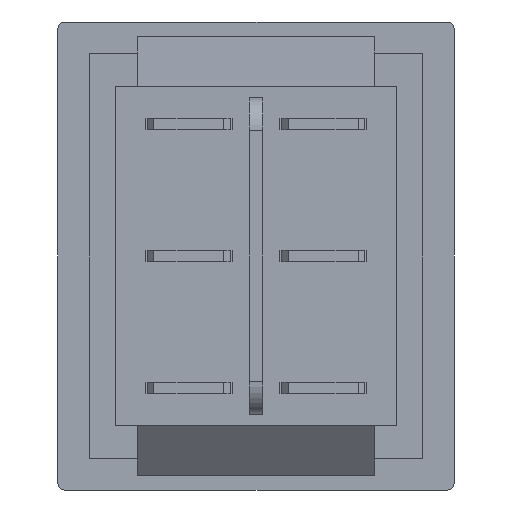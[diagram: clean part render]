
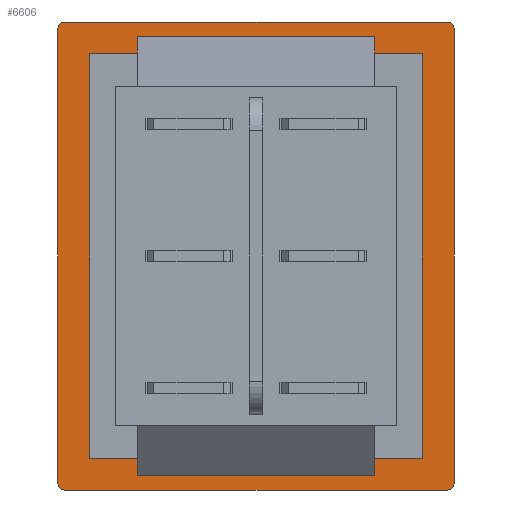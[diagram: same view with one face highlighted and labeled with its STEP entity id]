
A CAD part, front view. The second image highlights one B-rep face of the part: STEP entity #6606.
In plain terms, the highlighted planar face has unit normal (0, -1, 0).
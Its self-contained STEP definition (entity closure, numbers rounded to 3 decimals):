
#5308 = LINE ( 'NONE', #5309, #7054 ) ;
#5309 = CARTESIAN_POINT ( 'NONE',  ( 12.6, 3.5, 15.325 ) ) ;
#5310 = DIRECTION ( 'NONE',  ( -1., 0., 0. ) ) ;
#5317 = LINE ( 'NONE', #5318, #7057 ) ;
#5318 = CARTESIAN_POINT ( 'NONE',  ( -12.6, 3.5, -15.325 ) ) ;
#5319 = DIRECTION ( 'NONE',  ( 1., 0., 0. ) ) ;
#5320 = LINE ( 'NONE', #5321, #7058 ) ;
#5321 = CARTESIAN_POINT ( 'NONE',  ( 12.6, 3.5, -15.325 ) ) ;
#5322 = DIRECTION ( 'NONE',  ( 0., 0., 1. ) ) ;
#5323 = LINE ( 'NONE', #5324, #7059 ) ;
#5324 = CARTESIAN_POINT ( 'NONE',  ( -12.6, 3.5, -28.672 ) ) ;
#5325 = DIRECTION ( 'NONE',  ( 0., 0., 1. ) ) ;
#6311 = EDGE_CURVE ( 'NONE', #21156, #21155, #5308, .T. ) ;
#6314 = EDGE_CURVE ( 'NONE', #21158, #21157, #5317, .T. ) ;
#6315 = EDGE_CURVE ( 'NONE', #21157, #21156, #5320, .T. ) ;
#6316 = EDGE_CURVE ( 'NONE', #21158, #21155, #5323, .T. ) ;
#6356 = CIRCLE ( 'NONE', #14103, 0.5 ) ;
#6357 = CIRCLE ( 'NONE', #14099, 0.5 ) ;
#6358 = CIRCLE ( 'NONE', #14101, 0.5 ) ;
#6359 = CIRCLE ( 'NONE', #14073, 0.5 ) ;
#6606 = ADVANCED_FACE ( 'NONE', ( #13894, #13897 ), #15140, .T. ) ;
#6677 = EDGE_CURVE ( 'NONE', #21150, #21149, #10141, .T. ) ;
#6683 = EDGE_CURVE ( 'NONE', #21146, #21170, #10159, .T. ) ;
#6690 = EDGE_CURVE ( 'NONE', #21175, #21176, #10180, .T. ) ;
#6695 = EDGE_CURVE ( 'NONE', #21132, #21175, #6357, .T. ) ;
#6696 = EDGE_CURVE ( 'NONE', #21132, #21133, #10198, .T. ) ;
#6697 = EDGE_CURVE ( 'NONE', #21176, #21146, #6356, .T. ) ;
#6698 = EDGE_CURVE ( 'NONE', #21170, #21150, #6358, .T. ) ;
#6699 = EDGE_CURVE ( 'NONE', #21149, #21133, #6359, .T. ) ;
#7054 = VECTOR ( 'NONE', #5310, 1000. ) ;
#7057 = VECTOR ( 'NONE', #5319, 1000. ) ;
#7058 = VECTOR ( 'NONE', #5322, 1000. ) ;
#7059 = VECTOR ( 'NONE', #5325, 1000. ) ;
#10125 = CARTESIAN_POINT ( 'NONE',  ( -14.5, 3.5, -17.225 ) ) ;
#10141 = LINE ( 'NONE', #10142, #14083 ) ;
#10142 = CARTESIAN_POINT ( 'NONE',  ( 15., 3.5, 17.725 ) ) ;
#10143 = DIRECTION ( 'NONE',  ( -1., 0., 0. ) ) ;
#10159 = LINE ( 'NONE', #10160, #14089 ) ;
#10160 = CARTESIAN_POINT ( 'NONE',  ( 15., 3.5, -17.725 ) ) ;
#10161 = DIRECTION ( 'NONE',  ( 0., 0., 1. ) ) ;
#10180 = LINE ( 'NONE', #10181, #14096 ) ;
#10181 = CARTESIAN_POINT ( 'NONE',  ( -15., 3.5, -17.725 ) ) ;
#10182 = DIRECTION ( 'NONE',  ( 1., 0., 0. ) ) ;
#10195 = DIRECTION ( 'NONE',  ( 0., -1., 0. ) ) ;
#10196 = DIRECTION ( 'NONE',  ( 1., 0., 0. ) ) ;
#10197 = CARTESIAN_POINT ( 'NONE',  ( 14.5, 3.5, -17.225 ) ) ;
#10198 = LINE ( 'NONE', #10199, #14104 ) ;
#10199 = CARTESIAN_POINT ( 'NONE',  ( -15., 3.5, -28.672 ) ) ;
#10200 = DIRECTION ( 'NONE',  ( 0., 0., 1. ) ) ;
#10201 = DIRECTION ( 'NONE',  ( 0., -1., 0. ) ) ;
#10202 = DIRECTION ( 'NONE',  ( 1., 0., 0. ) ) ;
#10203 = CARTESIAN_POINT ( 'NONE',  ( 14.5, 3.5, 17.225 ) ) ;
#10204 = DIRECTION ( 'NONE',  ( 0., -1., 0. ) ) ;
#10205 = DIRECTION ( 'NONE',  ( 1., 0., 0. ) ) ;
#10206 = CARTESIAN_POINT ( 'NONE',  ( -14.5, 3.5, 17.225 ) ) ;
#10207 = DIRECTION ( 'NONE',  ( 0., -1., 0. ) ) ;
#10208 = DIRECTION ( 'NONE',  ( 1., 0., 0. ) ) ;
#12137 = CARTESIAN_POINT ( 'NONE',  ( -15., 3.5, -17.225 ) ) ;
#12138 = CARTESIAN_POINT ( 'NONE',  ( -15., 3.5, 17.225 ) ) ;
#12151 = CARTESIAN_POINT ( 'NONE',  ( 15., 3.5, -17.225 ) ) ;
#12154 = CARTESIAN_POINT ( 'NONE',  ( -14.5, 3.5, 17.725 ) ) ;
#12155 = CARTESIAN_POINT ( 'NONE',  ( 14.5, 3.5, 17.725 ) ) ;
#12160 = CARTESIAN_POINT ( 'NONE',  ( -12.6, 3.5, 15.325 ) ) ;
#12161 = CARTESIAN_POINT ( 'NONE',  ( 12.6, 3.5, 15.325 ) ) ;
#12162 = CARTESIAN_POINT ( 'NONE',  ( 12.6, 3.5, -15.325 ) ) ;
#12163 = CARTESIAN_POINT ( 'NONE',  ( -12.6, 3.5, -15.325 ) ) ;
#12175 = CARTESIAN_POINT ( 'NONE',  ( 15., 3.5, 17.225 ) ) ;
#12180 = CARTESIAN_POINT ( 'NONE',  ( -14.5, 3.5, -17.725 ) ) ;
#12181 = CARTESIAN_POINT ( 'NONE',  ( 14.5, 3.5, -17.725 ) ) ;
#13894 = FACE_BOUND ( 'NONE', #18829, .T. ) ;
#13897 = FACE_OUTER_BOUND ( 'NONE', #18830, .T. ) ;
#13900 = AXIS2_PLACEMENT_3D ( 'NONE', #15141, #15142, #15143 ) ;
#14073 = AXIS2_PLACEMENT_3D ( 'NONE', #10206, #10207, #10208 ) ;
#14083 = VECTOR ( 'NONE', #10143, 1000. ) ;
#14089 = VECTOR ( 'NONE', #10161, 1000. ) ;
#14096 = VECTOR ( 'NONE', #10182, 1000. ) ;
#14099 = AXIS2_PLACEMENT_3D ( 'NONE', #10125, #10195, #10196 ) ;
#14101 = AXIS2_PLACEMENT_3D ( 'NONE', #10203, #10204, #10205 ) ;
#14103 = AXIS2_PLACEMENT_3D ( 'NONE', #10197, #10201, #10202 ) ;
#14104 = VECTOR ( 'NONE', #10200, 1000. ) ;
#15140 = PLANE ( 'NONE',  #13900 ) ;
#15141 = CARTESIAN_POINT ( 'NONE',  ( -12.6, 3.5, -28.672 ) ) ;
#15142 = DIRECTION ( 'NONE',  ( 0., -1., 0. ) ) ;
#15143 = DIRECTION ( 'NONE',  ( 1., 0., 0. ) ) ;
#18829 = EDGE_LOOP ( 'NONE', ( #19770, #19771, #19772, #19768 ) ) ;
#18830 = EDGE_LOOP ( 'NONE', ( #19773, #19775, #19774, #19776, #19777, #19778, #19779, #19780 ) ) ;
#19768 = ORIENTED_EDGE ( 'NONE', *, *, #6315, .F. ) ;
#19770 = ORIENTED_EDGE ( 'NONE', *, *, #6314, .F. ) ;
#19771 = ORIENTED_EDGE ( 'NONE', *, *, #6316, .T. ) ;
#19772 = ORIENTED_EDGE ( 'NONE', *, *, #6311, .F. ) ;
#19773 = ORIENTED_EDGE ( 'NONE', *, *, #6696, .F. ) ;
#19774 = ORIENTED_EDGE ( 'NONE', *, *, #6690, .T. ) ;
#19775 = ORIENTED_EDGE ( 'NONE', *, *, #6695, .T. ) ;
#19776 = ORIENTED_EDGE ( 'NONE', *, *, #6697, .T. ) ;
#19777 = ORIENTED_EDGE ( 'NONE', *, *, #6683, .T. ) ;
#19778 = ORIENTED_EDGE ( 'NONE', *, *, #6698, .T. ) ;
#19779 = ORIENTED_EDGE ( 'NONE', *, *, #6677, .T. ) ;
#19780 = ORIENTED_EDGE ( 'NONE', *, *, #6699, .T. ) ;
#21132 = VERTEX_POINT ( 'NONE', #12137 ) ;
#21133 = VERTEX_POINT ( 'NONE', #12138 ) ;
#21146 = VERTEX_POINT ( 'NONE', #12151 ) ;
#21149 = VERTEX_POINT ( 'NONE', #12154 ) ;
#21150 = VERTEX_POINT ( 'NONE', #12155 ) ;
#21155 = VERTEX_POINT ( 'NONE', #12160 ) ;
#21156 = VERTEX_POINT ( 'NONE', #12161 ) ;
#21157 = VERTEX_POINT ( 'NONE', #12162 ) ;
#21158 = VERTEX_POINT ( 'NONE', #12163 ) ;
#21170 = VERTEX_POINT ( 'NONE', #12175 ) ;
#21175 = VERTEX_POINT ( 'NONE', #12180 ) ;
#21176 = VERTEX_POINT ( 'NONE', #12181 ) ;
